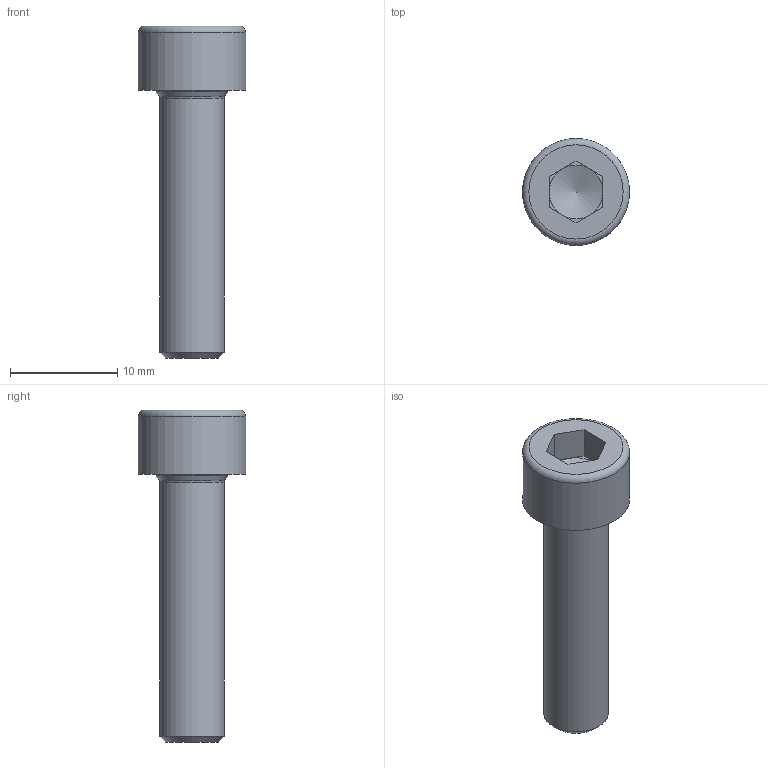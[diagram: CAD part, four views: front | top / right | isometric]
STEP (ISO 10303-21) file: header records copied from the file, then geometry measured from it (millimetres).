
FILE_DESCRIPTION(/* description */ ('STEP AP242 Edition 2','CAx-IF Rec.Pracs.---Representation and Presentation of Product Manufacturing Information (PMI)---4.0---2014-10-13','CAx-IF Rec.Pracs.---3D Tessellated Geometry---0.4---2014-09-14','2;1','CAx-IF Rec.Pracs.---User Defined Attributes---1.5---2016-08-15'),/* implementation_level */ '2;1');
FILE_NAME(/* name */ 'Assy_ForMFG - Hex socket head cap screw M6x1.00 x 25 (4)',/* time_stamp */ '2026-05-15T19:56:23Z',/* author */ (''),/* organization */ (''),/* preprocessor_version */ 'ST-DEVELOPER v20',/* originating_system */ 'ONSHAPE BY PTC INC, 1.215',/* authorisation */ ' ');
FILE_SCHEMA (('AP242_MANAGED_MODEL_BASED_3D_ENGINEERING_MIM_LF { 1 0 10303 442 3 1 4 }'));
Length unit declared in the file: metre
Products named in the file (1): Hex socket head cap screw M6x1.00 x 25
Bounding box: 10 x 10 x 31 mm (x, y, z)
Volume: 1105 mm3; surface area: 849.8 mm2
Topology: 1 solids, 1 shells, 23 faces, 49 edges, 29 vertices
Faces by surface type: plane 15, torus 3, cone 3, cylinder 2
Full cylindrical faces by diameter (mm): 6 x1, 10 x1
Entity records: 578 total; most frequent: DIRECTION 102, CARTESIAN_POINT 91, ORIENTED_EDGE 78, EDGE_CURVE 39, AXIS2_PLACEMENT_3D 39, FACE_BOUND 33, EDGE_LOOP 32, VERTEX_POINT 28
